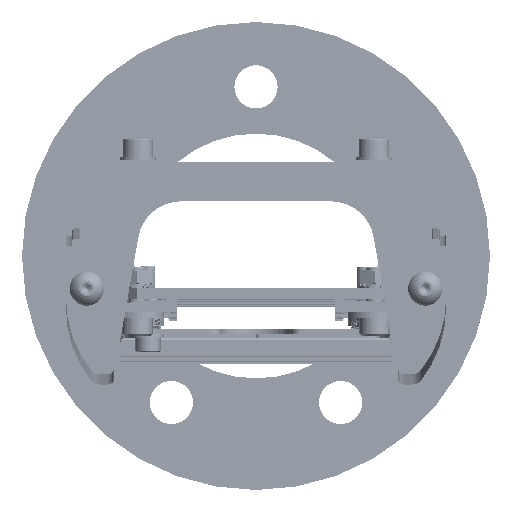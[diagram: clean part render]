
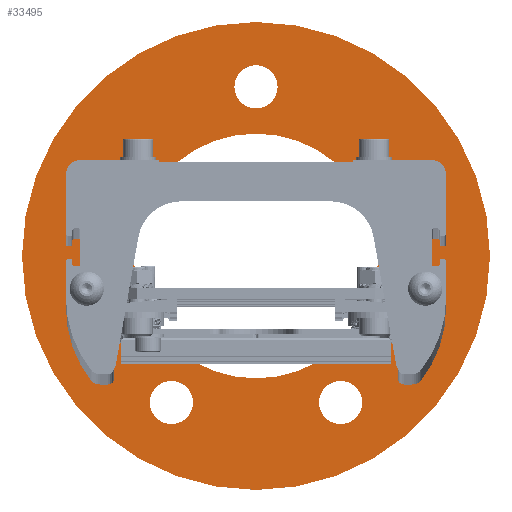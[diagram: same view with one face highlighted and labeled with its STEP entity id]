
A CAD part, top view. The second image highlights one B-rep face of the part: STEP entity #33495.
In plain terms, the highlighted planar face has unit normal (0, 0, 1).
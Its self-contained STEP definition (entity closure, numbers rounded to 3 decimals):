
#17229=FACE_BOUND('',#59401,.T.);
#17230=FACE_BOUND('',#59402,.T.);
#17231=FACE_BOUND('',#59403,.T.);
#17232=FACE_BOUND('',#59404,.T.);
#17233=FACE_BOUND('',#59405,.T.);
#17234=FACE_BOUND('',#59406,.T.);
#17235=FACE_BOUND('',#59407,.T.);
#24054=CIRCLE('',#198178,6.);
#24055=CIRCLE('',#198179,6.);
#24056=CIRCLE('',#198180,6.);
#24057=CIRCLE('',#198181,34.);
#24058=CIRCLE('',#198182,3.6);
#24059=CIRCLE('',#198183,3.6);
#24060=CIRCLE('',#198184,65.);
#33495=ADVANCED_FACE('',(#17229,#17230,#17231,#17232,#17233,#17234,#17235),
#40403,.T.);
#40403=PLANE('',#198185);
#59401=EDGE_LOOP('',(#98011));
#59402=EDGE_LOOP('',(#98012));
#59403=EDGE_LOOP('',(#98013));
#59404=EDGE_LOOP('',(#98014));
#59405=EDGE_LOOP('',(#98015));
#59406=EDGE_LOOP('',(#98016));
#59407=EDGE_LOOP('',(#98017));
#98011=ORIENTED_EDGE('',*,*,#149402,.F.);
#98012=ORIENTED_EDGE('',*,*,#149403,.F.);
#98013=ORIENTED_EDGE('',*,*,#149404,.F.);
#98014=ORIENTED_EDGE('',*,*,#149405,.T.);
#98015=ORIENTED_EDGE('',*,*,#149406,.T.);
#98016=ORIENTED_EDGE('',*,*,#149407,.T.);
#98017=ORIENTED_EDGE('',*,*,#149408,.F.);
#126431=VERTEX_POINT('',#365348);
#126432=VERTEX_POINT('',#365350);
#126433=VERTEX_POINT('',#365352);
#126434=VERTEX_POINT('',#365354);
#126435=VERTEX_POINT('',#365356);
#126436=VERTEX_POINT('',#365358);
#126437=VERTEX_POINT('',#365360);
#149402=EDGE_CURVE('',#126431,#126431,#24054,.T.);
#149403=EDGE_CURVE('',#126432,#126432,#24055,.T.);
#149404=EDGE_CURVE('',#126433,#126433,#24056,.T.);
#149405=EDGE_CURVE('',#126434,#126434,#24057,.T.);
#149406=EDGE_CURVE('',#126435,#126435,#24058,.T.);
#149407=EDGE_CURVE('',#126436,#126436,#24059,.T.);
#149408=EDGE_CURVE('',#126437,#126437,#24060,.T.);
#198178=AXIS2_PLACEMENT_3D('',#365347,#243090,#243091);
#198179=AXIS2_PLACEMENT_3D('',#365349,#243092,#243093);
#198180=AXIS2_PLACEMENT_3D('',#365351,#243094,#243095);
#198181=AXIS2_PLACEMENT_3D('',#365353,#243096,#243097);
#198182=AXIS2_PLACEMENT_3D('',#365355,#243098,#243099);
#198183=AXIS2_PLACEMENT_3D('',#365357,#243100,#243101);
#198184=AXIS2_PLACEMENT_3D('',#365359,#243102,#243103);
#198185=AXIS2_PLACEMENT_3D('',#365361,#243104,#243105);
#243090=DIRECTION('',(0.,0.,1.));
#243091=DIRECTION('',(-1.,0.,0.));
#243092=DIRECTION('',(0.,0.,1.));
#243093=DIRECTION('',(-1.,0.,0.));
#243094=DIRECTION('',(0.,0.,1.));
#243095=DIRECTION('',(-1.,0.,0.));
#243096=DIRECTION('',(0.,0.,-1.));
#243097=DIRECTION('',(-1.,0.,0.));
#243098=DIRECTION('',(0.,0.,-1.));
#243099=DIRECTION('',(1.,0.,0.));
#243100=DIRECTION('',(0.,0.,-1.));
#243101=DIRECTION('',(1.,0.,0.));
#243102=DIRECTION('',(0.,0.,-1.));
#243103=DIRECTION('',(-1.,0.,0.));
#243104=DIRECTION('',(0.,0.,1.));
#243105=DIRECTION('',(-1.,0.,0.));
#365347=CARTESIAN_POINT('',(293.846,-100.913,-285.));
#365348=CARTESIAN_POINT('',(287.846,-100.913,-285.));
#365349=CARTESIAN_POINT('',(317.346,-13.21,-285.));
#365350=CARTESIAN_POINT('',(311.346,-13.21,-285.));
#365351=CARTESIAN_POINT('',(340.846,-100.913,-285.));
#365352=CARTESIAN_POINT('',(334.846,-100.913,-285.));
#365353=CARTESIAN_POINT('',(317.346,-60.21,-285.));
#365354=CARTESIAN_POINT('',(283.346,-60.21,-285.));
#365355=CARTESIAN_POINT('',(364.346,-72.21,-285.));
#365356=CARTESIAN_POINT('',(367.946,-72.21,-285.));
#365357=CARTESIAN_POINT('',(270.346,-72.21,-285.));
#365358=CARTESIAN_POINT('',(273.946,-72.21,-285.));
#365359=CARTESIAN_POINT('',(317.346,-60.21,-285.));
#365360=CARTESIAN_POINT('',(252.346,-60.21,-285.));
#365361=CARTESIAN_POINT('',(252.346,-60.21,-285.));
